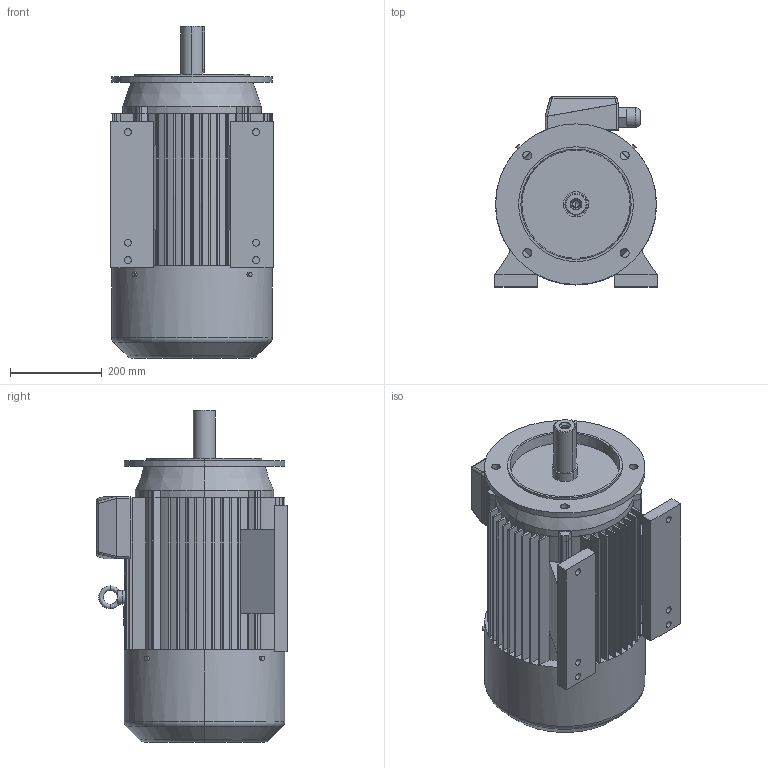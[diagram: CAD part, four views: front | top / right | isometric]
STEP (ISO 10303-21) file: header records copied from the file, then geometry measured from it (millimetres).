
FILE_DESCRIPTION (( 'STEP AP203' ), '1' );
FILE_NAME ('3SIEL180M.STEP', '2016-09-13T08:43:55', ( 'Indukta' ), ( 'Celma Indukta S.A.' ), 'SwSTEP 2.0', 'SolidWorks 2003064', '' );
FILE_SCHEMA (( 'CONFIG_CONTROL_DESIGN' ));
Length unit declared in the file: millimetre
Products named in the file (1): 3SIEL180M
Bounding box: 353 x 414 x 723 mm (x, y, z)
Volume: 54274691.7 mm3; surface area: 2054046.4 mm2
Topology: 16 solids, 16 shells, 455 faces, 1156 edges, 731 vertices
Faces by surface type: plane 229, cylinder 190, torus 16, cone 16, sphere 4
Entity records: 14097 total; most frequent: CARTESIAN_POINT 2712, DIRECTION 2511, ORIENTED_EDGE 2300, EDGE_CURVE 1150, AXIS2_PLACEMENT_3D 936, VERTEX_POINT 731, LINE 639, VECTOR 639
